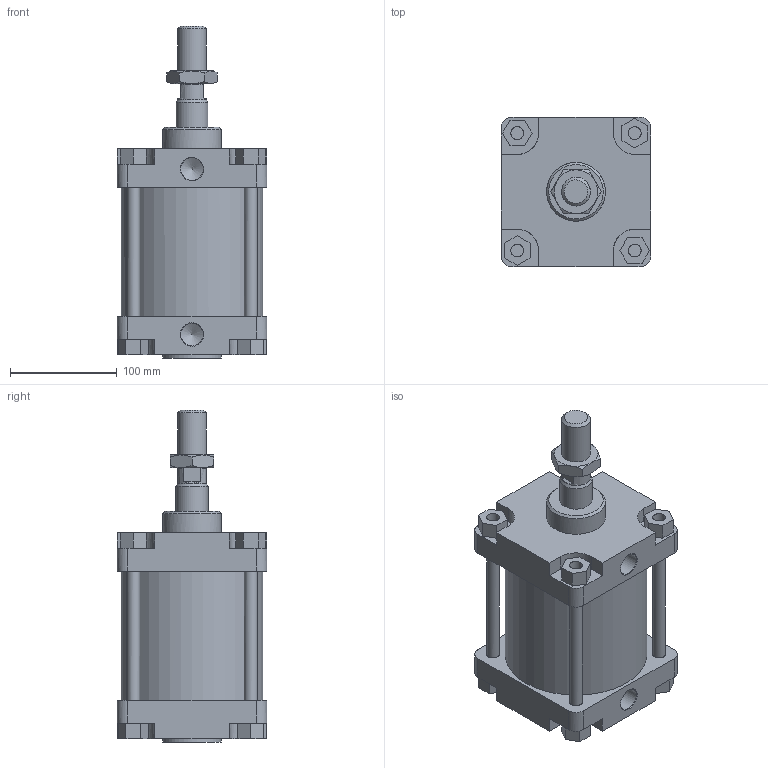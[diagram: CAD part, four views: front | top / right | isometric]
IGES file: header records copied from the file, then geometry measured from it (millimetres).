
Global section: file name: 1305_125_0025_01A; native system: Autodesk Inventor 2014; preprocessor: unknown; author: A. Manieri; date: 20161124.143144; units: millimetre
Bounding box: 140 x 140 x 311 mm (x, y, z)
Volume: 2857511.8 mm3; surface area: 348161.1 mm2
Topology: 9 solids, 9 shells, 175 faces, 440 edges, 295 vertices
Faces by surface type: bspline 175
